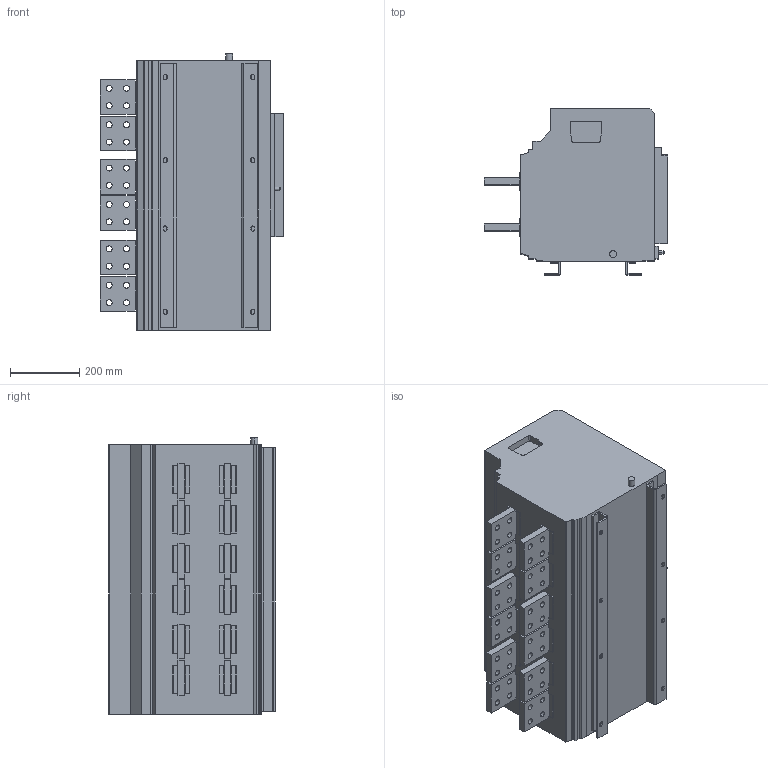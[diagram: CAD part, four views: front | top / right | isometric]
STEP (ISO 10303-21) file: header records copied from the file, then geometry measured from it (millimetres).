
FILE_DESCRIPTION (( 'STEP AP203' ), '1' );
FILE_NAME ('BWA-6300V-Drawout-3P-4000~6300A.STEP', '2024-11-08T05:13:07', ( '' ), ( '' ), 'SwSTEP 2.0', 'SolidWorks 2017', '' );
FILE_SCHEMA (( 'CONFIG_CONTROL_DESIGN' ));
Length unit declared in the file: millimetre
Products named in the file (1): BWA-6300V-Drawout-3P-4000~6300A
Bounding box: 528 x 480 x 798 mm (x, y, z)
Volume: 131450275 mm3; surface area: 2318749.4 mm2
Topology: 1 solids, 1 shells, 1055 faces, 2842 edges, 1894 vertices
Faces by surface type: plane 678, bspline 226, cylinder 149, torus 2
Entity records: 45091 total; most frequent: CARTESIAN_POINT 19522, ORIENTED_EDGE 5684, DIRECTION 4352, EDGE_CURVE 2842, VECTOR 2088, LINE 2088, VERTEX_POINT 1894, EDGE_LOOP 1272
